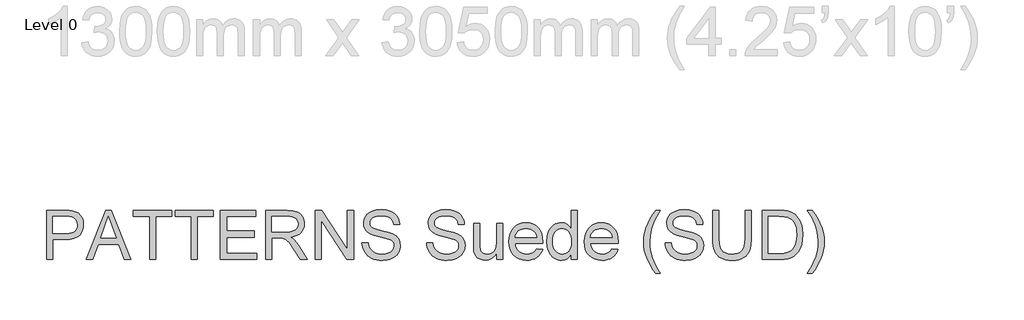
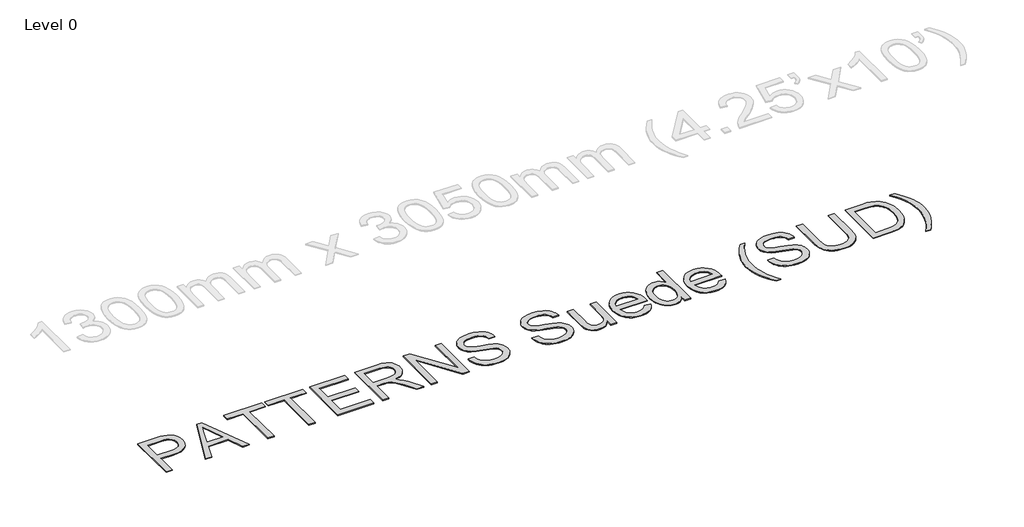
# One storey, part 11 of 29: 1 proxy.
"""IFC4 building model written with IfcOpenShell, lengths in millimetres."""

from ifc_helpers import new_model, si_unit, origin, origin_with_axes, place, context, project, spatial, polyline, outline, extrude, element, save

model = new_model("IFC4")

# Units and contexts
model_context = context("Model", 3, world=origin())
ifc_project = project(units=[si_unit("LENGTHUNIT", "METRE", prefix="MILLI")], contexts=[model_context])

# Site, building, storey
site = spatial("IfcSite", under=ifc_project)
building = spatial("IfcBuilding", under=site)
storey = spatial("IfcBuildingStorey", under=building, Name="Level 0", Elevation=0.0)

# Proxy
placement = place(None, origin())
element("IfcBuildingElementProxy", 1, Name="600mm Arial", ObjectType="600mm Arial", at=placement, inside=storey, context=model_context, shape_type="SweptSolid", body=[
    extrude(outline(polyline([(-10877.4631852, -2239.8720473), (-10877.4631852, -1637.1341864), (-10654.0852378, -1637.1341864), (-10602.0667237, -1638.5689262), (-10564.0277254, -1642.8731456), (-10523.8734056, -1653.5969057), (-10490.8192083, -1671.0529064), (-10464.202946, -1696.0320939), (-10443.3624309, -1729.3254144), (-10429.8979499, -1768.5968174), (-10425.4097896, -1811.5102521), (-10428.4402175, -1848.5099838), (-10437.5315013, -1882.5482654), (-10452.683641, -1913.625097), (-10473.8966365, -1941.7404784), (-10503.019095, -1965.0458028), (-10541.8996233, -1981.6924631), (-10590.5382216, -1991.6804593), (-10648.9348898, -1995.0097913), (-10802.1209526, -1995.0097913), (-10802.1209526, -2239.8720473), (-10877.4631852, -2239.8720473)]), holes=[polyline([(-10802.1209526, -1919.6675587), (-10644.5203059, -1919.6675587), (-10608.2839294, -1917.9385133), (-10577.7129356, -1912.7513772), (-10552.8073245, -1904.1061503), (-10533.5670961, -1892.0028327), (-10519.2105013, -1876.763321), (-10508.9557907, -1858.7095121), (-10502.8029643, -1837.8414059), (-10500.7520222, -1814.1590025), (-10505.5896704, -1780.313859), (-10520.1026151, -1751.7662161), (-10542.4882345, -1730.2819076), (-10570.9439069, -1717.626767), (-10600.0065845, -1713.764006), (-10646.2861395, -1712.476419), (-10802.1209526, -1712.476419), (-10802.1209526, -1919.6675587)])]), origin_with_axes(), (0.0, 0.0, 1.0), 10.0),
    extrude(outline(polyline([(-10392.0061044, -2239.8720473), (-10151.4112796, -1637.1341864), (-10087.2526596, -1637.1341864), (-9846.6578348, -2239.8720473), (-9926.2674985, -2239.8720473), (-9995.2821608, -2051.5164658), (-10243.5289312, -2051.5164658), (-10312.3964406, -2239.8720473), (-10392.0061044, -2239.8720473)]), holes=[polyline([(-10215.8642051, -1976.1742332), (-10022.799734, -1976.1742332), (-10077.0991165, -1827.9913655), (-10119.3319696, -1712.476419), (-10156.8559331, -1815.0419193), (-10215.8642051, -1976.1742332)])]), origin_with_axes(), (0.0, 0.0, 1.0), 10.0),
    extrude(outline(polyline([(-9615.480789, -2239.8720473), (-9615.480789, -1712.476419), (-9813.2541496, -1712.476419), (-9813.2541496, -1637.1341864), (-9342.3651958, -1637.1341864), (-9342.3651958, -1712.476419), (-9540.1385564, -1712.476419), (-9540.1385564, -2239.8720473), (-9615.480789, -2239.8720473)])), origin_with_axes(), (0.0, 0.0, 1.0), 10.0),
    extrude(outline(polyline([(-9106.9207189, -2239.8720473), (-9106.9207189, -1712.476419), (-9304.6940795, -1712.476419), (-9304.6940795, -1637.1341864), (-8833.8051256, -1637.1341864), (-8833.8051256, -1712.476419), (-9031.5784862, -1712.476419), (-9031.5784862, -2239.8720473), (-9106.9207189, -2239.8720473)])), origin_with_axes(), (0.0, 0.0, 1.0), 10.0),
    extrude(outline(polyline([(-8749.0451139, -2239.8720473), (-8749.0451139, -1637.1341864), (-8315.8272764, -1637.1341864), (-8315.8272764, -1712.476419), (-8673.7028813, -1712.476419), (-8673.7028813, -1891.4142215), (-8334.6628346, -1891.4142215), (-8334.6628346, -1966.7564541), (-8673.7028813, -1966.7564541), (-8673.7028813, -2164.5298147), (-8306.4094973, -2164.5298147), (-8306.4094973, -2239.8720473), (-8749.0451139, -2239.8720473)])), origin_with_axes(), (0.0, 0.0, 1.0), 10.0),
    extrude(outline(polyline([(-8193.3961484, -2239.8720473), (-8193.3961484, -1637.1341864), (-7933.6714598, -1637.1341864), (-7863.8658513, -1641.1992825), (-7813.0797418, -1653.3945706), (-7793.4808285, -1663.0882612), (-7775.9604485, -1675.9089487), (-7760.5186018, -1691.8566332), (-7747.1552883, -1710.9313147), (-7736.3717473, -1732.107522), (-7728.669218, -1754.3597842), (-7724.0477005, -1777.6881012), (-7722.5071946, -1802.0924731), (-7725.0593759, -1833.049743), (-7732.71592, -1861.4686271), (-7745.4768267, -1887.3491255), (-7763.3420961, -1910.691238), (-7786.5416544, -1930.7500038), (-7815.3054279, -1946.7804618), (-7849.6334166, -1958.7826119), (-7889.5256204, -1966.7564541), (-7864.6935857, -1982.9800501), (-7846.7041562, -1998.9829169), (-7815.8388568, -2035.5871754), (-7785.635745, -2076.5324415), (-7685.1303839, -2239.8720473), (-7772.6862987, -2239.8720473), (-7851.1187401, -2114.9393218), (-7907.7725674, -2032.2394493), (-7928.8338116, -2008.1247845), (-7947.5773993, -1993.1703814), (-7983.4091056, -1978.8229836), (-8027.1134866, -1976.1742332), (-8118.0539158, -1976.1742332), (-8118.0539158, -2239.8720473), (-8193.3961484, -2239.8720473)]), holes=[polyline([(-8118.0539158, -1900.8320006), (-7949.4168092, -1900.8320006), (-7900.9851446, -1898.1648561), (-7863.4059988, -1890.1634227), (-7835.1158733, -1876.2942715), (-7814.5512698, -1856.0239736), (-7802.0248879, -1831.5046386), (-7797.8494272, -1804.8883762), (-7799.8405885, -1785.6205567), (-7805.8140724, -1768.1369649), (-7815.7698789, -1752.4376008), (-7829.708008, -1738.5224643), (-7847.9503564, -1727.1273195), (-7870.818821, -1718.9879304), (-7898.3134016, -1714.1042969), (-7930.4340983, -1712.476419), (-8118.0539158, -1712.476419), (-8118.0539158, -1900.8320006)])]), origin_with_axes(), (0.0, 0.0, 1.0), 10.0),
    extrude(outline(polyline([(-7590.6582875, -2239.8720473), (-7590.6582875, -1637.1341864), (-7510.0185542, -1637.1341864), (-7195.1115663, -2114.6450162), (-7195.1115663, -1637.1341864), (-7119.7693337, -1637.1341864), (-7119.7693337, -2239.8720473), (-7200.409067, -2239.8720473), (-7515.3160549, -1762.2140648), (-7515.3160549, -2239.8720473), (-7590.6582875, -2239.8720473)])), origin_with_axes(), (0.0, 0.0, 1.0), 10.0),
    extrude(outline(polyline([(-7016.1737639, -2032.6809076), (-6940.8315313, -2032.6809076), (-6932.1863044, -2074.4906964), (-6916.5513196, -2108.0967167), (-6892.1607433, -2134.7681613), (-6857.2487419, -2155.7742232), (-6814.5744305, -2169.4042512), (-6766.8969239, -2173.9475938), (-6724.9215883, -2170.5078971), (-6688.170177, -2160.1888072), (-6658.3901295, -2143.8548466), (-6637.3288852, -2122.3705381), (-6624.8025033, -2097.7040503), (-6620.6270427, -2071.8235519), (-6623.7540396, -2046.6052412), (-6633.1350305, -2024.8082329), (-6652.1913178, -2006.2117981), (-6684.3442042, -1990.5952074), (-6794.0466152, -1961.8268354), (-6866.0595157, -1942.7889421), (-6912.1367356, -1924.6707539), (-6949.642305, -1899.3236844), (-6976.2217792, -1868.6055378), (-6992.0590991, -1833.1785017), (-6997.3382057, -1793.7047636), (-6995.7057294, -1771.2685604), (-6990.8083003, -1749.5773183), (-6982.6459185, -1728.6310372), (-6971.2185841, -1708.4297171), (-6956.6550556, -1689.796494), (-6939.0840918, -1673.554504), (-6918.5056927, -1659.7037468), (-6894.9198583, -1648.2442227), (-6841.9080628, -1632.8483612), (-6783.2308845, -1627.7164074), (-6719.6608758, -1633.0874845), (-6664.0371181, -1649.2007159), (-6639.7017241, -1661.202866), (-6618.3461743, -1675.7250077), (-6599.9704686, -1692.7671412), (-6584.5746071, -1712.3292662), (-6572.2781514, -1733.8411659), (-6563.2006632, -1756.7326231), (-6557.3421424, -1781.0036377), (-6554.7025891, -1806.6542098), (-6630.0448217, -1806.6542098), (-6635.0848051, -1782.6131214), (-6643.8771847, -1761.69903), (-6656.4219608, -1743.9119355), (-6672.7191332, -1729.251838), (-6693.0722046, -1717.7923139), (-6717.7846776, -1709.6069395), (-6746.8565522, -1704.6957148), (-6780.2878286, -1703.05864), (-6814.7859627, -1704.6773207), (-6844.2625075, -1709.5333631), (-6868.7174631, -1717.626767), (-6888.1508295, -1728.9575324), (-6902.9580798, -1742.5783633), (-6913.5346872, -1757.5419635), (-6919.8806516, -1773.8483329), (-6921.9959731, -1791.4974716), (-6920.496854, -1806.681801), (-6915.9994966, -1820.4497846), (-6908.5039009, -1832.8014226), (-6898.010067, -1843.7367149), (-6881.4921654, -1854.0925931), (-6855.4829084, -1864.5588358), (-6774.9903278, -1885.8224152), (-6691.9225733, -1906.0191367), (-6641.6698928, -1923.6406843), (-6598.7196698, -1950.9743165), (-6582.1143963, -1967.0415627), (-6568.7556813, -1984.7090955), (-6558.4871751, -2003.8849445), (-6551.1525279, -2024.4771392), (-6545.28481, -2069.9105656), (-6546.9724687, -2093.4780059), (-6552.0354447, -2116.3556674), (-6560.4737379, -2138.5435503), (-6572.2873485, -2160.0416544), (-6587.2693427, -2180.0176467), (-6605.2127871, -2197.6391943), (-6626.1176814, -2212.9062971), (-6649.9840259, -2225.8189551), (-6676.1174431, -2236.0874613), (-6703.8235559, -2243.4221086), (-6763.953868, -2249.2898264), (-6802.4941055, -2247.7079338), (-6837.7693903, -2242.9622561), (-6869.7797224, -2235.0527932), (-6898.5251018, -2223.9795451), (-6924.1802724, -2209.7241178), (-6946.9199783, -2192.2681172), (-6966.7442193, -2171.6115431), (-6983.6529955, -2147.7543957), (-6997.2738264, -2121.4692272), (-7007.2342314, -2093.5285896), (-7013.5342106, -2063.9324831), (-7016.1737639, -2032.6809076)])), origin_with_axes(), (0.0, 0.0, 1.0), 10.0),
    extrude(outline(polyline([(-6225.0803214, -2032.6809076), (-6149.7380888, -2032.6809076), (-6141.0928619, -2074.4906964), (-6125.4578771, -2108.0967167), (-6101.0673009, -2134.7681613), (-6066.1552995, -2155.7742232), (-6023.4809881, -2169.4042512), (-5975.8034815, -2173.9475938), (-5933.8281459, -2170.5078971), (-5897.0767345, -2160.1888072), (-5867.296687, -2143.8548466), (-5846.2354428, -2122.3705381), (-5833.7090609, -2097.7040503), (-5829.5336002, -2071.8235519), (-5832.6605972, -2046.6052412), (-5842.0415881, -2024.8082329), (-5861.0978754, -2006.2117981), (-5893.2507618, -1990.5952074), (-6002.9531727, -1961.8268354), (-6074.9660733, -1942.7889421), (-6121.0432932, -1924.6707539), (-6158.5488626, -1899.3236844), (-6185.1283368, -1868.6055378), (-6200.9656567, -1833.1785017), (-6206.2447633, -1793.7047636), (-6204.6122869, -1771.2685604), (-6199.7148579, -1749.5773183), (-6191.5524761, -1728.6310372), (-6180.1251416, -1708.4297171), (-6165.5616131, -1689.796494), (-6147.9906493, -1673.554504), (-6127.4122502, -1659.7037468), (-6103.8264158, -1648.2442227), (-6050.8146203, -1632.8483612), (-5992.1374421, -1627.7164074), (-5928.5674333, -1633.0874845), (-5872.9436757, -1649.2007159), (-5848.6082817, -1661.202866), (-5827.2527319, -1675.7250077), (-5808.8770262, -1692.7671412), (-5793.4811647, -1712.3292662), (-5781.184709, -1733.8411659), (-5772.1072208, -1756.7326231), (-5766.2487, -1781.0036377), (-5763.6091467, -1806.6542098), (-5838.9513793, -1806.6542098), (-5843.9913626, -1782.6131214), (-5852.7837423, -1761.69903), (-5865.3285184, -1743.9119355), (-5881.6256907, -1729.251838), (-5901.9787621, -1717.7923139), (-5926.6912351, -1709.6069395), (-5955.7631098, -1704.6957148), (-5989.1943861, -1703.05864), (-6023.6925202, -1704.6773207), (-6053.1690651, -1709.5333631), (-6077.6240207, -1717.626767), (-6097.0573871, -1728.9575324), (-6111.8646374, -1742.5783633), (-6122.4412448, -1757.5419635), (-6128.7872092, -1773.8483329), (-6130.9025307, -1791.4974716), (-6129.4034115, -1806.681801), (-6124.9060542, -1820.4497846), (-6117.4104585, -1832.8014226), (-6106.9166246, -1843.7367149), (-6090.398723, -1854.0925931), (-6064.3894659, -1864.5588358), (-5983.8968854, -1885.8224152), (-5900.8291309, -1906.0191367), (-5850.5764503, -1923.6406843), (-5807.6262274, -1950.9743165), (-5791.0209539, -1967.0415627), (-5777.6622389, -1984.7090955), (-5767.3937327, -2003.8849445), (-5760.0590854, -2024.4771392), (-5754.1913676, -2069.9105656), (-5755.8790263, -2093.4780059), (-5760.9420022, -2116.3556674), (-5769.3802955, -2138.5435503), (-5781.1939061, -2160.0416544), (-5796.1759003, -2180.0176467), (-5814.1193446, -2197.6391943), (-5835.024239, -2212.9062971), (-5858.8905834, -2225.8189551), (-5885.0240007, -2236.0874613), (-5912.7301134, -2243.4221086), (-5972.8604255, -2249.2898264), (-6011.4006631, -2247.7079338), (-6046.6759479, -2242.9622561), (-6078.68628, -2235.0527932), (-6107.4316594, -2223.9795451), (-6133.08683, -2209.7241178), (-6155.8265358, -2192.2681172), (-6175.6507769, -2171.6115431), (-6192.5595531, -2147.7543957), (-6206.1803839, -2121.4692272), (-6216.140789, -2093.5285896), (-6222.4407681, -2063.9324831), (-6225.0803214, -2032.6809076)])), origin_with_axes(), (0.0, 0.0, 1.0), 10.0),
    extrude(outline(polyline([(-5368.0624255, -2239.8720473), (-5368.0624255, -2163.7940507), (-5395.3224813, -2201.1984526), (-5427.0706975, -2227.9158825), (-5463.307074, -2243.9463404), (-5504.0316109, -2249.2898264), (-5540.7278399, -2245.5374301), (-5574.8856832, -2234.280241), (-5603.5436906, -2217.3576692), (-5623.7404121, -2196.6091247), (-5637.3336518, -2171.409208), (-5646.1812138, -2141.1325198), (-5650.5957978, -2071.0877879), (-5650.5957978, -1797.2364307), (-5575.2535652, -1797.2364307), (-5575.2535652, -2035.6239636), (-5574.113131, -2083.3014702), (-5570.6918284, -2112.4377242), (-5559.7105509, -2138.0607052), (-5540.8933868, -2157.5400568), (-5515.491135, -2169.8457095), (-5484.7545943, -2173.9475938), (-5452.2522201, -2169.753739), (-5421.8467732, -2157.1721748), (-5396.7756152, -2137.3617294), (-5380.2761077, -2111.481231), (-5371.115846, -2076.0358008), (-5368.0624255, -2027.5305597), (-5368.0624255, -1797.2364307), (-5292.7201929, -1797.2364307), (-5292.7201929, -2239.8720473), (-5368.0624255, -2239.8720473)])), origin_with_axes(), (0.0, 0.0, 1.0), 10.0),
    extrude(outline(polyline([(-4879.2208303, -2108.0231403), (-4805.3501257, -2117.4409193), (-4816.6762926, -2147.0278288), (-4831.966388, -2173.1014652), (-4851.2204119, -2195.6618286), (-4874.4383643, -2214.7089189), (-4901.381122, -2229.8380659), (-4931.8095615, -2240.6445995), (-4965.7236829, -2247.1285197), (-5003.1234863, -2249.2898264), (-5049.8720908, -2245.5604227), (-5091.5255297, -2234.3722115), (-5128.083803, -2215.7251929), (-5159.5469106, -2189.6193668), (-5184.8479948, -2156.7813002), (-5202.9201978, -2117.93756), (-5213.7635196, -2073.0881463), (-5217.3779602, -2022.233059), (-5213.7267314, -1969.6535248), (-5202.773045, -1923.3095905), (-5184.516901, -1883.201256), (-5158.9582994, -1849.3285212), (-5127.5779652, -1822.4179533), (-5091.8566235, -1803.1961191), (-5051.7942742, -1791.6630185), (-5007.3909174, -1787.8186517), (-4964.4177018, -1791.6538215), (-4925.5555676, -1803.1593309), (-4890.8045146, -1822.3351799), (-4860.1645429, -1849.1813685), (-4835.1531658, -1882.9805268), (-4817.2878964, -1923.0152849), (-4806.5687348, -1969.2856428), (-4802.9956809, -2021.7916006), (-4803.4371393, -2042.0986867), (-5142.0357276, -2042.0986867), (-5137.6717275, -2072.1638428), (-5128.9943109, -2098.4949966), (-5116.003478, -2121.0921481), (-5098.6992286, -2139.9552974), (-5078.0380561, -2154.8269271), (-5054.9764535, -2165.4495197), (-5029.5144209, -2171.8230753), (-5001.6519583, -2173.9475938), (-4961.5528208, -2170.0112564), (-4927.7812536, -2158.2022444), (-4900.3372568, -2137.7847937), (-4879.2208303, -2108.0231403)]), holes=[polyline([(-5142.0357276, -1966.7564541), (-4878.3379135, -1966.7564541), (-4888.5282448, -1926.9516222), (-4897.2930333, -1911.2982433), (-4908.5042371, -1898.4775558), (-4929.0504465, -1883.026512), (-4952.4293473, -1871.9900522), (-4978.6409395, -1865.3681762), (-5007.685223, -1863.1608843), (-5034.1773252, -1864.9221193), (-5058.4713324, -1870.2058245), (-5080.5672448, -1879.0119997), (-5100.4650622, -1891.3406451), (-5117.1623062, -1906.6215435), (-5129.6564985, -1924.2844778), (-5137.947639, -1944.329448), (-5142.0357276, -1966.7564541)])]), origin_with_axes(), (0.0, 0.0, 1.0), 10.0),
    extrude(outline(polyline([(-4454.5378551, -2239.8720473), (-4454.5378551, -2168.7972459), (-4477.0798243, -2204.0127498), (-4504.3858654, -2229.1666813), (-4536.4559783, -2244.2590401), (-4573.2901631, -2249.2898264), (-4598.158986, -2247.4688105), (-4621.9977393, -2242.0057629), (-4644.806423, -2232.9006835), (-4666.5850371, -2220.1535724), (-4686.6529999, -2204.1461071), (-4704.3297298, -2185.2599651), (-4719.6152267, -2163.4951466), (-4732.5094906, -2138.8516515), (-4742.7458071, -2111.7985292), (-4750.0574618, -2082.8048295), (-4755.9067855, -2018.9956974), (-4750.5173143, -1955.9775117), (-4734.3489006, -1899.066167), (-4722.2271888, -1873.7099005), (-4707.4199385, -1851.499025), (-4689.9271497, -1832.4335406), (-4669.7488222, -1816.5134473), (-4647.5977276, -1803.9594742), (-4624.1866371, -1794.9923506), (-4599.5155508, -1789.6120764), (-4573.5844687, -1787.8186517), (-4536.7226928, -1792.9506055), (-4504.128348, -1808.346467), (-4476.5004102, -1831.946097), (-4454.5378551, -1861.6893563), (-4454.5378551, -1637.1341864), (-4379.1956224, -1637.1341864), (-4379.1956224, -2239.8720473), (-4454.5378551, -2239.8720473)]), holes=[polyline([(-4680.5645529, -2018.7013918), (-4678.4400344, -2055.2366725), (-4672.0664788, -2086.8515314), (-4661.4438862, -2113.5459687), (-4646.5722565, -2135.3199843), (-4628.8127532, -2152.2195635), (-4609.5265396, -2164.2906914), (-4588.7136157, -2171.5333682), (-4566.3739816, -2173.9475938), (-4543.9285814, -2171.6437328), (-4523.2398176, -2164.7321498), (-4504.3076905, -2153.2128448), (-4487.1321998, -2137.0858179), (-4472.872174, -2116.2223102), (-4462.6864412, -2090.4935632), (-4456.5750016, -2059.8995768), (-4454.5378551, -2024.440351), (-4456.6117898, -1985.5644211), (-4462.833594, -1952.2251153), (-4473.2032678, -1924.4224335), (-4487.720811, -1902.1563758), (-4505.2733807, -1885.0958482), (-4524.7481338, -1872.9097571), (-4546.1450704, -1865.5981025), (-4569.4641903, -1863.1608843), (-4592.2452829, -1865.5015335), (-4613.0582068, -1872.523481), (-4631.902962, -1884.226727), (-4648.7795485, -1900.6112714), (-4662.6854879, -1922.0357991), (-4672.6183018, -1948.858995), (-4678.5779901, -1981.0808593), (-4680.5645529, -2018.7013918)])]), origin_with_axes(), (0.0, 0.0, 1.0), 10.0),
    extrude(outline(polyline([(-3956.2784808, -2108.0231403), (-3882.4077762, -2117.4409193), (-3893.7339431, -2147.0278288), (-3909.0240385, -2173.1014652), (-3928.2780624, -2195.6618286), (-3951.4960148, -2214.7089189), (-3978.4387725, -2229.8380659), (-4008.867212, -2240.6445995), (-4042.7813334, -2247.1285197), (-4080.1811368, -2249.2898264), (-4126.9297413, -2245.5604227), (-4168.5831802, -2234.3722115), (-4205.1414535, -2215.7251929), (-4236.6045611, -2189.6193668), (-4261.9056453, -2156.7813002), (-4279.9778483, -2117.93756), (-4290.8211701, -2073.0881463), (-4294.4356107, -2022.233059), (-4290.7843819, -1969.6535248), (-4279.8306955, -1923.3095905), (-4261.5745515, -1883.201256), (-4236.0159499, -1849.3285212), (-4204.6356157, -1822.4179533), (-4168.914274, -1803.1961191), (-4128.8519247, -1791.6630185), (-4084.4485679, -1787.8186517), (-4041.4753523, -1791.6538215), (-4002.6132181, -1803.1593309), (-3967.8621651, -1822.3351799), (-3937.2221934, -1849.1813685), (-3912.2108163, -1882.9805268), (-3894.3455469, -1923.0152849), (-3883.6263853, -1969.2856428), (-3880.0533314, -2021.7916006), (-3880.4947898, -2042.0986867), (-4219.0933781, -2042.0986867), (-4214.729378, -2072.1638428), (-4206.0519614, -2098.4949966), (-4193.0611285, -2121.0921481), (-4175.7568791, -2139.9552974), (-4155.0957066, -2154.8269271), (-4132.034104, -2165.4495197), (-4106.5720714, -2171.8230753), (-4078.7096088, -2173.9475938), (-4038.6104713, -2170.0112564), (-4004.8389041, -2158.2022444), (-3977.3949073, -2137.7847937), (-3956.2784808, -2108.0231403)]), holes=[polyline([(-4219.0933781, -1966.7564541), (-3955.395564, -1966.7564541), (-3965.5858953, -1926.9516222), (-3974.3506838, -1911.2982433), (-3985.5618876, -1898.4775558), (-4006.108097, -1883.026512), (-4029.4869978, -1871.9900522), (-4055.69859, -1865.3681762), (-4084.7428735, -1863.1608843), (-4111.2349757, -1864.9221193), (-4135.5289829, -1870.2058245), (-4157.6248953, -1879.0119997), (-4177.5227127, -1891.3406451), (-4194.2199567, -1906.6215435), (-4206.714149, -1924.2844778), (-4215.0052895, -1944.329448), (-4219.0933781, -1966.7564541)])]), origin_with_axes(), (0.0, 0.0, 1.0), 10.0),
    extrude(outline(polyline([(-3418.5821566, -2409.3920707), (-3448.9968006, -2370.0378943), (-3476.9650293, -2327.4647504), (-3502.4868427, -2281.672639), (-3525.5622408, -2232.6615602), (-3544.6829075, -2181.5811452), (-3558.3405266, -2129.5810252), (-3566.535098, -2076.6612002), (-3569.2666219, -2022.8216702), (-3567.2248768, -1975.5028485), (-3561.0996416, -1929.1957024), (-3550.8909162, -1883.9002317), (-3536.5987007, -1839.6164366), (-3514.8752689, -1788.8303271), (-3487.9647009, -1738.1545823), (-3455.8669968, -1687.5892021), (-3418.5821566, -1637.1341864), (-3362.0754822, -1637.1341864), (-3406.4052626, -1708.7608109), (-3432.5616724, -1756.4751057), (-3456.6211549, -1813.1289329), (-3474.9416783, -1872.137205), (-3489.1787115, -1947.5162258), (-3493.9243892, -2023.2631286), (-3491.8642501, -2071.561436), (-3485.6838326, -2119.8505464), (-3475.3831367, -2168.1304597), (-3460.9621625, -2216.401176), (-3442.4209099, -2264.6626953), (-3419.759379, -2312.9150175), (-3392.9775698, -2361.1581426), (-3362.0754822, -2409.3920707), (-3418.5821566, -2409.3920707)])), origin_with_axes(), (0.0, 0.0, 1.0), 10.0),
    extrude(outline(polyline([(-3305.5688077, -2032.6809076), (-3230.2265751, -2032.6809076), (-3221.5813482, -2074.4906964), (-3205.9463634, -2108.0967167), (-3181.5557871, -2134.7681613), (-3146.6437858, -2155.7742232), (-3103.9694744, -2169.4042512), (-3056.2919678, -2173.9475938), (-3014.3166321, -2170.5078971), (-2977.5652208, -2160.1888072), (-2947.7851733, -2143.8548466), (-2926.7239291, -2122.3705381), (-2914.1975471, -2097.7040503), (-2910.0220865, -2071.8235519), (-2913.1490835, -2046.6052412), (-2922.5300743, -2024.8082329), (-2941.5863617, -2006.2117981), (-2973.7392481, -1990.5952074), (-3083.441659, -1961.8268354), (-3155.4545596, -1942.7889421), (-3201.5317795, -1924.6707539), (-3239.0373489, -1899.3236844), (-3265.616823, -1868.6055378), (-3281.4541429, -1833.1785017), (-3286.7332496, -1793.7047636), (-3285.1007732, -1771.2685604), (-3280.2033441, -1749.5773183), (-3272.0409624, -1728.6310372), (-3260.6136279, -1708.4297171), (-3246.0500994, -1689.796494), (-3228.4791356, -1673.554504), (-3207.9007365, -1659.7037468), (-3184.3149021, -1648.2442227), (-3131.3031066, -1632.8483612), (-3072.6259284, -1627.7164074), (-3009.0559196, -1633.0874845), (-2953.4321619, -1649.2007159), (-2929.096768, -1661.202866), (-2907.7412181, -1675.7250077), (-2889.3655125, -1692.7671412), (-2873.969651, -1712.3292662), (-2861.6731953, -1733.8411659), (-2852.5957071, -1756.7326231), (-2846.7371863, -1781.0036377), (-2844.097633, -1806.6542098), (-2919.4398656, -1806.6542098), (-2924.4798489, -1782.6131214), (-2933.2722286, -1761.69903), (-2945.8170046, -1743.9119355), (-2962.114177, -1729.251838), (-2982.4672484, -1717.7923139), (-3007.1797214, -1709.6069395), (-3036.2515961, -1704.6957148), (-3069.6828724, -1703.05864), (-3104.1810065, -1704.6773207), (-3133.6575514, -1709.5333631), (-3158.112507, -1717.626767), (-3177.5458734, -1728.9575324), (-3192.3531237, -1742.5783633), (-3202.9297311, -1757.5419635), (-3209.2756955, -1773.8483329), (-3211.3910169, -1791.4974716), (-3209.8918978, -1806.681801), (-3205.3945404, -1820.4497846), (-3197.8989448, -1832.8014226), (-3187.4051109, -1843.7367149), (-3170.8872093, -1854.0925931), (-3144.8779522, -1864.5588358), (-3064.3853717, -1885.8224152), (-2981.3176172, -1906.0191367), (-2931.0649366, -1923.6406843), (-2888.1147137, -1950.9743165), (-2871.5094401, -1967.0415627), (-2858.1507252, -1984.7090955), (-2847.882219, -2003.8849445), (-2840.5475717, -2024.4771392), (-2834.6798539, -2069.9105656), (-2836.3675125, -2093.4780059), (-2841.4304885, -2116.3556674), (-2849.8687818, -2138.5435503), (-2861.6823923, -2160.0416544), (-2876.6643866, -2180.0176467), (-2894.6078309, -2197.6391943), (-2915.5127253, -2212.9062971), (-2939.3790697, -2225.8189551), (-2965.5124869, -2236.0874613), (-2993.2185997, -2243.4221086), (-3053.3489118, -2249.2898264), (-3091.8891493, -2247.7079338), (-3127.1644342, -2242.9622561), (-3159.1747663, -2235.0527932), (-3187.9201457, -2223.9795451), (-3213.5753163, -2209.7241178), (-3236.3150221, -2192.2681172), (-3256.1392631, -2171.6115431), (-3273.0480393, -2147.7543957), (-3286.6688702, -2121.4692272), (-3296.6292752, -2093.5285896), (-3302.9292544, -2063.9324831), (-3305.5688077, -2032.6809076)])), origin_with_axes(), (0.0, 0.0, 1.0), 10.0),
    extrude(outline(polyline([(-2326.1197838, -1637.1341864), (-2250.7775511, -1637.1341864), (-2250.7775511, -1984.8562483), (-2255.8911109, -2066.2869279), (-2262.2830605, -2099.9803201), (-2271.2317901, -2128.992414), (-2283.5098517, -2154.4222569), (-2299.8897975, -2177.3688963), (-2320.3716276, -2197.8323323), (-2344.9553419, -2215.8125648), (-2373.6685316, -2230.4588668), (-2406.5387879, -2240.920511), (-2443.5661107, -2247.1974976), (-2484.7505001, -2249.2898264), (-2524.9186154, -2247.4688105), (-2561.251561, -2242.0057629), (-2593.7493367, -2232.9006835), (-2622.4119427, -2220.1535724), (-2647.2439773, -2203.952969), (-2668.2500393, -2184.487413), (-2685.4301284, -2161.7569042), (-2698.7842449, -2135.7614427), (-2708.7952337, -2105.6089147), (-2715.9459399, -2070.4072063), (-2720.2363637, -2030.1563175), (-2721.666505, -1984.8562483), (-2721.666505, -1637.1341864), (-2646.3242724, -1637.1341864), (-2646.3242724, -1982.2074979), (-2642.6086642, -2049.9161791), (-2631.4618398, -2097.0602568), (-2622.6970512, -2114.4380825), (-2611.2651182, -2129.7097839), (-2597.1660408, -2142.8753608), (-2580.3998188, -2153.9348133), (-2540.1535285, -2168.9443987), (-2491.8138344, -2173.9475938), (-2450.2891542, -2171.4735874), (-2415.1840148, -2164.0515681), (-2386.4984162, -2151.681536), (-2364.2323585, -2134.3634911), (-2347.558107, -2110.009703), (-2335.6479274, -2076.5324415), (-2328.5018197, -2033.9317064), (-2326.1197838, -1982.2074979), (-2326.1197838, -1637.1341864)])), origin_with_axes(), (0.0, 0.0, 1.0), 10.0),
    extrude(outline(polyline([(-2118.9286441, -2239.8720473), (-2118.9286441, -1637.1341864), (-1911.0017404, -1637.1341864), (-1848.8664714, -1639.3046902), (-1803.433045, -1645.8162015), (-1755.3876564, -1662.5548323), (-1714.8470606, -1688.9319714), (-1692.5074264, -1710.4898563), (-1673.1660305, -1734.8436444), (-1656.8228729, -1761.9933356), (-1643.4779535, -1791.93893), (-1633.1128783, -1824.4045161), (-1625.7092531, -1859.1141823), (-1619.786353, -1935.2657553), (-1623.7962668, -1999.9578042), (-1635.826008, -2056.8875429), (-1654.1465314, -2105.3559958), (-1677.0287915, -2144.664187), (-1703.3691423, -2175.6950333), (-1732.0639379, -2199.3314515), (-1765.0077706, -2216.8610285), (-1804.0952326, -2229.5713515), (-1849.3999003, -2237.2968734), (-1900.9953501, -2239.8720473), (-2118.9286441, -2239.8720473)]), holes=[polyline([(-2043.5864115, -2164.5298147), (-1910.2659764, -2164.5298147), (-1855.1204653, -2161.807488), (-1813.2922825, -2153.6405077), (-1781.7280073, -2140.5071204), (-1757.3742192, -2122.8855729), (-1731.1994153, -2090.272834), (-1711.5361226, -2048.058375), (-1699.2304699, -1996.058255), (-1695.1285856, -1934.0885329), (-1697.138141, -1890.3473637), (-1703.1668072, -1851.9772716), (-1713.2145842, -1818.9782566), (-1727.281472, -1791.3503188), (-1744.2270364, -1768.4680587), (-1762.9108432, -1749.706077), (-1783.3328925, -1735.0643735), (-1805.4931842, -1724.5429485), (-1848.8296832, -1715.4930514), (-1912.3261156, -1712.476419), (-2043.5864115, -1712.476419), (-2043.5864115, -2164.5298147)])]), origin_with_axes(), (0.0, 0.0, 1.0), 10.0),
    extrude(outline(polyline([(-1506.7730041, -2409.3920707), (-1563.2796786, -2409.3920707), (-1532.377591, -2361.1581426), (-1505.5957817, -2312.9150175), (-1482.9342508, -2264.6626953), (-1464.3929983, -2216.401176), (-1449.972024, -2168.1304597), (-1439.6713282, -2119.8505464), (-1433.4909107, -2071.561436), (-1431.4307715, -2023.2631286), (-1436.1764492, -1948.0680488), (-1450.4134824, -1873.4615801), (-1468.402912, -1814.3429435), (-1492.3520299, -1757.6523281), (-1518.6188043, -1709.4229985), (-1563.2796786, -1637.1341864), (-1506.7730041, -1637.1341864), (-1469.4881639, -1687.5892021), (-1437.3904598, -1738.1545823), (-1410.4798919, -1788.8303271), (-1388.75646, -1839.6164366), (-1374.4642445, -1883.9002317), (-1364.2555192, -1929.1957024), (-1358.1302839, -1975.5028485), (-1356.0885389, -2022.8216702), (-1358.8338583, -2076.6612002), (-1367.0698164, -2129.5810252), (-1380.7964134, -2181.5811452), (-1400.0136491, -2232.6615602), (-1423.1580251, -2281.672639), (-1448.666043, -2327.4647504), (-1476.5377026, -2370.0378943), (-1506.7730041, -2409.3920707)])), origin_with_axes(), (0.0, 0.0, 1.0), 10.0),
])

save(model, "model.ifc")
